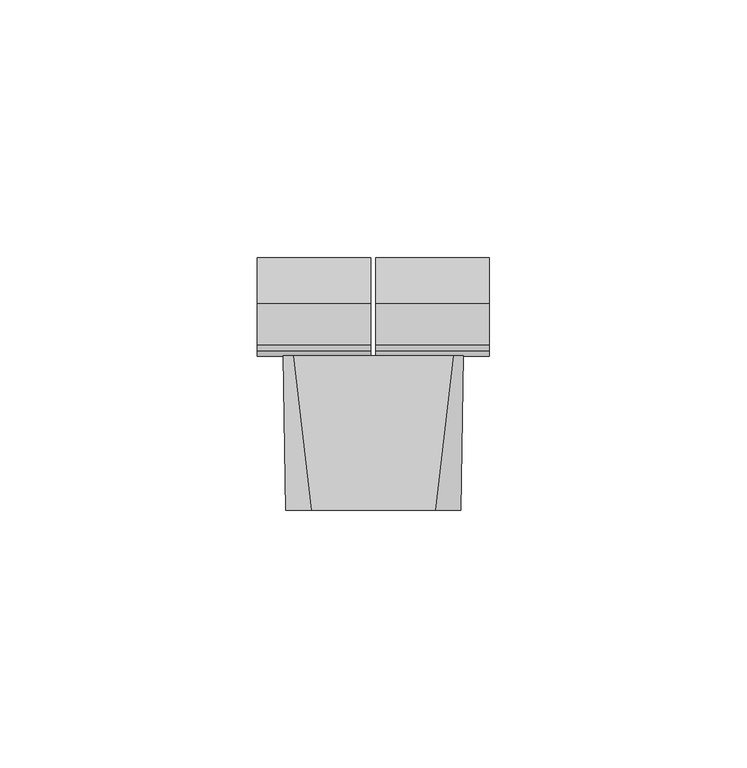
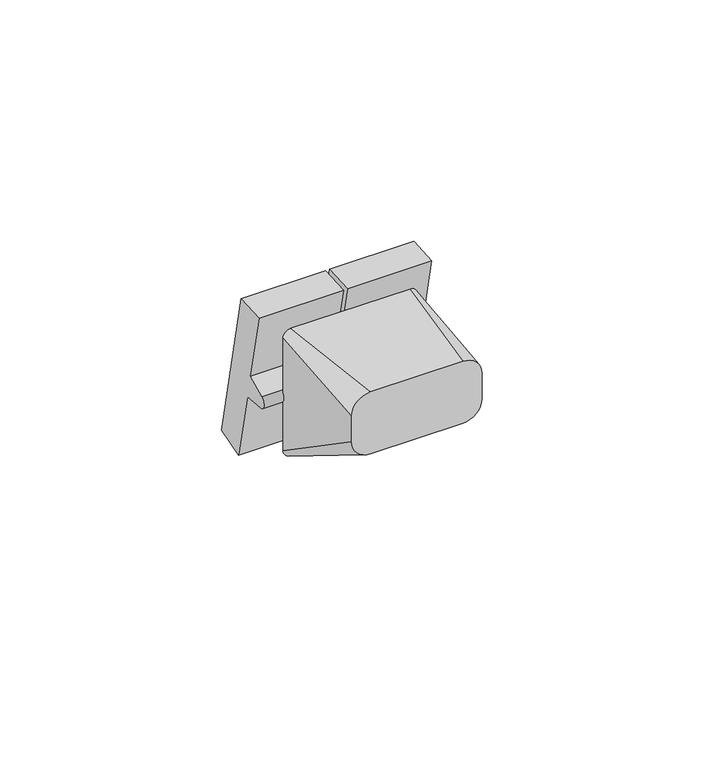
"""IFC4 building model written with IfcOpenShell, lengths in millimetres: proxy geometry, IEK_Skandy_Механизм выключателя : В2_SK-V04B."""

from ifc_helpers import new_model, si_unit, point, frame, frame_2d, origin, place, context, project, spatial, polyline, circle_curve, trimmed, segment, composite_curve, outline, extrude, source, transform, mapped, element, save
from ifc_brep_helpers import plane_surface, spline_surface, advanced_brep


def electrical_fixtures_18ec57b5(model_context):
    return source(origin(), model_context, "Body", "SolidModel", [
        extrude(outline(composite_curve([segment(polyline([(19.1247035, -19.6237652), (11.4236286, -21.8320129), (7.3756597, -3.3748404), (1.5972872, -2.8692983)]), True, "CONTINUOUS"), segment(trimmed(circle_curve(frame_2d((1.7530049, -1.0894363)), 1.7866608), [point((1.5972872, -2.8692983))], [point((0.9979294, 0.5298284))], False, "CARTESIAN"), True, "CONTINUOUS"), segment(polyline([(0.9979294, 0.5298284), (6.2549179, 2.9812023), (2.206949, 21.4383748), (10.1988574, 21.9972235), (19.1247035, -19.6237652)]), True, "CONTINUOUS")], self_intersect=False)), frame((-22.5, 0.0, 0.0), z_axis=(1.0, 0.0, 0.0), x_axis=(0.0, 1.0, 0.0)), (0.0, 0.0, 1.0), 22.0),
        extrude(outline(composite_curve([segment(polyline([(19.1247035, -19.6237652), (11.4236286, -21.8320129), (7.3756597, -3.3748404), (1.5972872, -2.8692983)]), True, "CONTINUOUS"), segment(trimmed(circle_curve(frame_2d((1.7530049, -1.0894363)), 1.7866608), [point((1.5972872, -2.8692983))], [point((0.9979294, 0.5298284))], False, "CARTESIAN"), True, "CONTINUOUS"), segment(polyline([(0.9979294, 0.5298284), (6.2549179, 2.9812023), (2.206949, 21.4383748), (10.1988574, 21.9972235), (19.1247035, -19.6237652)]), True, "CONTINUOUS")], self_intersect=False)), frame((0.5, 0.0, 0.0), z_axis=(1.0, 0.0, 0.0), x_axis=(0.0, 1.0, 0.0)), (0.0, 0.0, 1.0), 22.0),
        advanced_brep(
        [(-12.0, -30.0, 17.0), (-17.0, -30.0, 12.0), (-17.0, -30.0, 5.0), (-12.0, -30.0, 0.0), (12.0, -30.0, 0.0), (17.0, -30.0, 5.0), (17.0, -30.0, 12.0), (12.0, -30.0, 17.0), (-15.5, 0.0, 17.5), (15.5, 0.0, 17.5), (17.5, 0.0, 15.5), (17.5, 0.0, -15.5), (15.5, 0.0, -17.5), (-15.5, 0.0, -17.5), (-17.5, 0.0, -15.5), (-17.5, 0.0, 15.5)],
        [
            (0, 1, circle_curve(frame((-12.0, -30.0, 12.0), z_axis=(0.0, -1.0, 0.0), x_axis=(1.0, 0.0, 0.0)), 5.0)),
            (1, 2),
            (2, 3, circle_curve(frame((-12.0, -30.0, 5.0), z_axis=(0.0, -1.0, 0.0), x_axis=(1.0, 0.0, 0.0)), 5.0)),
            (3, 4),
            (4, 5, circle_curve(frame((12.0, -30.0, 5.0), z_axis=(0.0, -1.0, 0.0), x_axis=(1.0, 0.0, 0.0)), 5.0)),
            (5, 6),
            (6, 7, circle_curve(frame((12.0, -30.0, 12.0), z_axis=(0.0, -1.0, 0.0), x_axis=(1.0, 0.0, 0.0)), 5.0)),
            (7, 0),
            (8, 9),
            (9, 10, circle_curve(frame((15.5, 0.0, 15.5), z_axis=(0.0, 1.0, 0.0), x_axis=(1.0, 0.0, 0.0)), 2.0)),
            (10, 11),
            (11, 12, circle_curve(frame((15.5, 0.0, -15.5), z_axis=(0.0, 1.0, 0.0), x_axis=(1.0, 0.0, 0.0)), 2.0)),
            (12, 13),
            (13, 14, circle_curve(frame((-15.5, 0.0, -15.5), z_axis=(0.0, 1.0, 0.0), x_axis=(1.0, 0.0, 0.0)), 2.0)),
            (14, 15),
            (15, 8, circle_curve(frame((-15.5, 0.0, 15.5), z_axis=(0.0, 1.0, 0.0), x_axis=(1.0, 0.0, 0.0)), 2.0)),
            (8, 0),
            (7, 9),
            (6, 10),
            (5, 11),
            (4, 12),
            (3, 13),
            (2, 14),
            (1, 15),
        ],
        [
            plane_surface(frame((0.0, -30.0, 8.5), z_axis=(0.0, -1.0, 0.0), x_axis=(-1.0, 0.0, 0.0))),
            plane_surface(frame((0.0, 0.0, 0.0), z_axis=(0.0, 1.0, 0.0), x_axis=(-1.0, 0.0, 0.0))),
            plane_surface(frame((0.0, 0.0, 17.5), z_axis=(0.0, -0.016664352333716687, 0.9998611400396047), x_axis=(-1.0, 0.0, 0.0))),
            spline_surface(2, 1, [[(17.5, 0.0, 15.5), (17.0, -30.0, 12.0)], [(17.5, 0.0, 17.5), (17.0, -30.0, 17.0)], [(15.5, 0.0, 17.5), (12.0, -30.0, 17.0)]], [3, 3], [2, 2], [0.0, 1.0], [0.0, 1.0], weights=[[1.0, 1.0], [0.7071067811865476, 0.7071067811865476], [1.0, 1.0]]),
            plane_surface(frame((17.5, 0.0, 0.0), z_axis=(0.9998611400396, -0.016664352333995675, 0.0), x_axis=(0.0, 0.0, 1.0))),
            spline_surface(2, 1, [[(15.5, 0.0, -17.5), (12.0, -30.0, 0.0)], [(17.5, 0.0, -17.5), (17.0, -30.0, 0.0)], [(17.5, 0.0, -15.5), (17.0, -30.0, 5.0)]], [3, 3], [2, 2], [0.0, 1.0], [0.0, 1.0], weights=[[1.0, 1.0], [0.7071067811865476, 0.7071067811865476], [1.0, 1.0]]),
            plane_surface(frame((0.0, 0.0, -17.5), z_axis=(0.0, -0.5038710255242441, -0.8637789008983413), x_axis=(1.0, 0.0, 0.0))),
            spline_surface(2, 1, [[(-17.5, 0.0, -15.5), (-17.0, -30.0, 5.0)], [(-17.5, 0.0, -17.5), (-17.0, -30.0, 0.0)], [(-15.5, 0.0, -17.5), (-12.0, -30.0, 0.0)]], [3, 3], [2, 2], [0.0, 1.0], [0.0, 1.0], weights=[[1.0, 1.0], [0.7071067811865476, 0.7071067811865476], [1.0, 1.0]]),
            plane_surface(frame((-17.5, 0.0, 0.0), z_axis=(-0.9998611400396, -0.01666435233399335, 0.0), x_axis=(0.0, 0.0, -1.0))),
            spline_surface(2, 1, [[(-15.5, 0.0, 17.5), (-12.0, -30.0, 17.0)], [(-17.5, 0.0, 17.5), (-17.0, -30.0, 17.0)], [(-17.5, 0.0, 15.5), (-17.0, -30.0, 12.0)]], [3, 3], [2, 2], [0.0, 1.0], [0.0, 1.0], weights=[[1.0, 1.0], [0.7071067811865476, 0.7071067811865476], [1.0, 1.0]]),
        ],
        [
            (0, [[1, 2, 3, 4, 5, 6, 7, 8]]),
            (1, [[9, 10, 11, 12, 13, 14, 15, 16]]),
            (2, [[-9, 17, -8, 18]]),
            (3, [[-10, -18, -7, 19]]),
            (4, [[-11, -19, -6, 20]]),
            (5, [[-12, -20, -5, 21]]),
            (6, [[-13, -21, -4, 22]]),
            (7, [[-14, -22, -3, 23]]),
            (8, [[-15, -23, -2, 24]]),
            (9, [[-16, -24, -1, -17]]),
        ],
    ),
    ])


if __name__ == "__main__":
    model = new_model("IFC4")
    model_context = context("Model", 3, world=origin())
    ifc_project = project(units=[si_unit("LENGTHUNIT", "METRE", prefix="MILLI")], contexts=[model_context])
    site = spatial("IfcSite", under=ifc_project)
    building = spatial("IfcBuilding", under=site)
    placement = place(None, origin())
    electrical_fixtures_shape = electrical_fixtures_18ec57b5(model_context)
    element("IfcBuildingElementProxy", 1, Name="IEK_Skandy_Механизм выключателя : В2_SK-V04B", ObjectType="IEK_Skandy_Механизм выключателя : В2_SK-V04B", at=placement, inside=building, context=model_context, shape_type="MappedRepresentation", body=[
        mapped(electrical_fixtures_shape, transform((0.0, 0.0, 0.0), x_axis=(1.0, 0.0, 0.0), y_axis=(0.0, 1.0, 0.0), z_axis=(0.0, 0.0, 1.0))),
    ])
    save(model, "model.ifc")
